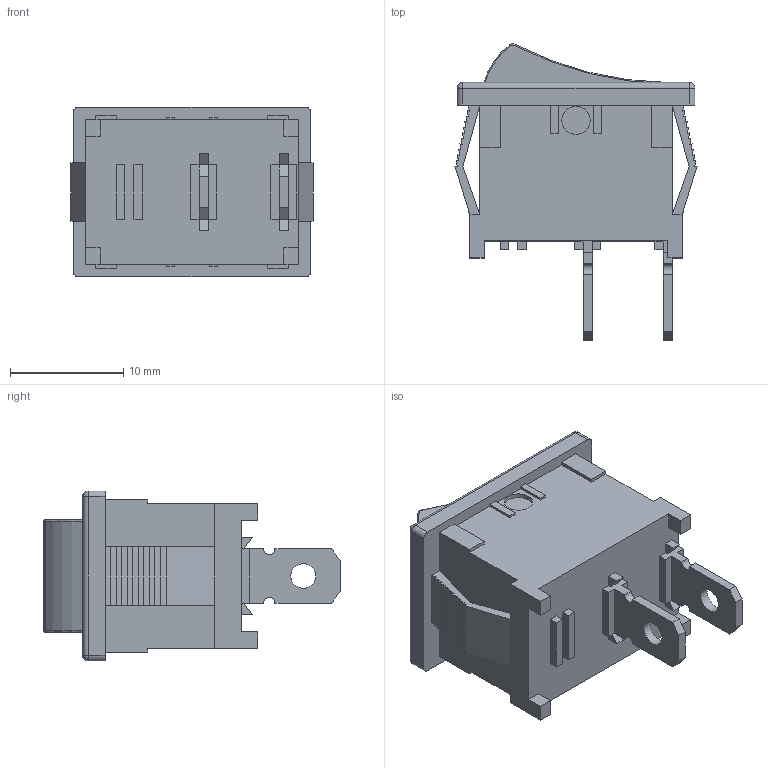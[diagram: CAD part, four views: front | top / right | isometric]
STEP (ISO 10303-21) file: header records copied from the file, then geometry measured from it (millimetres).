
FILE_DESCRIPTION(/* description */ (''),/* implementation_level */ '2;1');
FILE_NAME(/* name */ 'RF1-1A-DC-2-B.stp',/* time_stamp */ '2025-01-08T14:31:16-08:00',/* author */ ('tylerl'),/* organization */ (''),/* preprocessor_version */ 'ST-DEVELOPER v20',/* originating_system */ 'Autodesk Inventor 2025',/* authorisation */ '');
FILE_SCHEMA (('AUTOMOTIVE_DESIGN { 1 0 10303 214 3 1 1 }'));
Products named in the file (3): RF1-1A-DC-2-B-2; Top; Bottom
Assembly tree (2 placements, depth 2):
  RF1-1A-DC-2-B-2
    Top
    Bottom
Bounding box: 21.38 x 26.16 x 15 mm (x, y, z)
Volume: 3668.4 mm3; surface area: 2671.7 mm2
Topology: 2 solids, 2 shells, 207 faces, 565 edges, 366 vertices
Faces by surface type: plane 177, cylinder 20, torus 6, sphere 4
Full cylindrical faces by diameter (mm): 2.2 x2, 2.5 x2
Entity records: 6576 total; most frequent: CARTESIAN_POINT 1191, ORIENTED_EDGE 1130, DIRECTION 1033, EDGE_CURVE 565, LINE 513, VECTOR 513, VERTEX_POINT 366, AXIS2_PLACEMENT_3D 260
